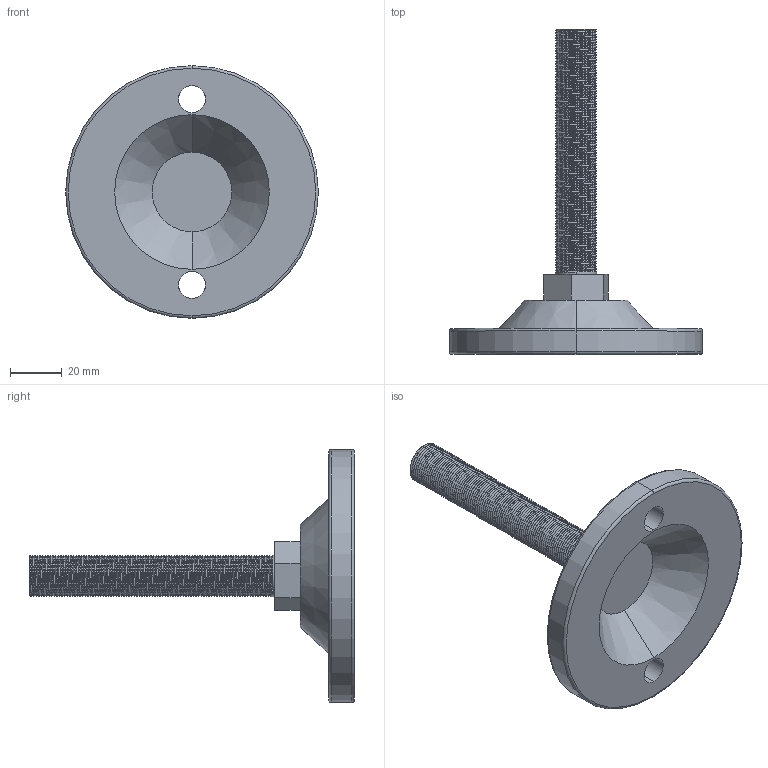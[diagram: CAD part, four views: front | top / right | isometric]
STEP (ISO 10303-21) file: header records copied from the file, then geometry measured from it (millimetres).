
FILE_DESCRIPTION (( 'STEP AP203' ), '1' );
FILE_NAME ('230-CE-UAFS-16.STEP', '2015-07-09T09:33:33', ( '' ), ( '' ), 'SwSTEP 2.0', 'SolidWorks 2013', '' );
FILE_SCHEMA (( 'CONFIG_CONTROL_DESIGN' ));
Length unit declared in the file: millimetre
Products named in the file (1): 230-CE-UAFS-16
Bounding box: 98 x 126 x 98 mm (x, y, z)
Volume: 91266.1 mm3; surface area: 27741.2 mm2
Topology: 1 solids, 1 shells, 223 faces, 648 edges, 429 vertices
Faces by surface type: cylinder 195, plane 13, torus 7, cone 4, bspline 4
Entity records: 15009 total; most frequent: CARTESIAN_POINT 10157, ORIENTED_EDGE 1296, DIRECTION 746, EDGE_CURVE 648, VERTEX_POINT 429, AXIS2_PLACEMENT_3D 263, EDGE_LOOP 229, ADVANCED_FACE 223
